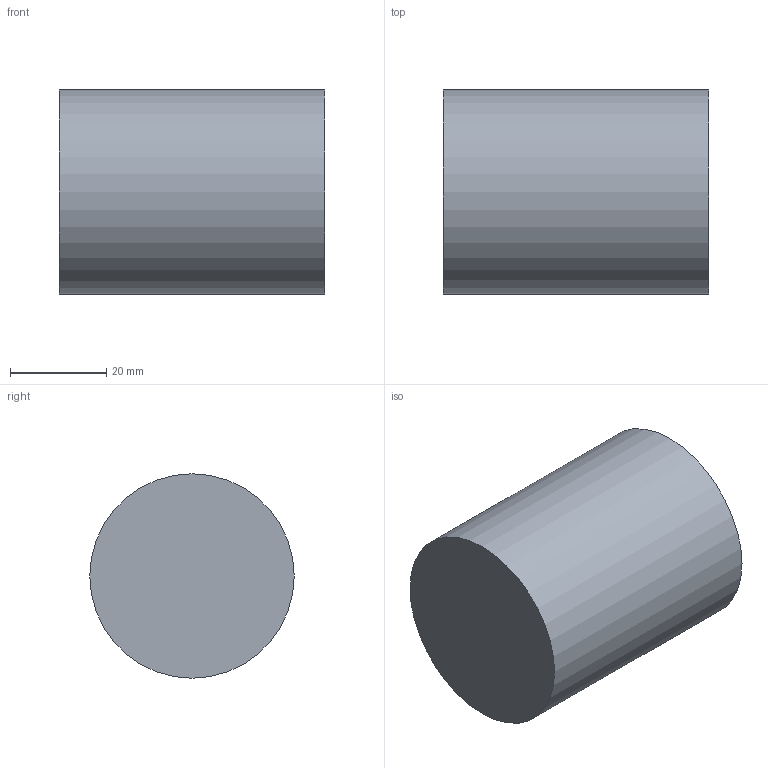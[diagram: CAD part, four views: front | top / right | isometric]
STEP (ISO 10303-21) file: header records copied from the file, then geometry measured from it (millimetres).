
FILE_DESCRIPTION(/* description */ (''),/* implementation_level */ '2;1');
FILE_NAME(/* name */ 'Endkappe 42.4.stp',/* time_stamp */ '2024-03-12T15:53:48+01:00',/* author */ ('peter.csaszar'),/* organization */ (''),/* preprocessor_version */ 'ST-DEVELOPER v20',/* originating_system */ 'Autodesk Inventor 2024',/* authorisation */ '');
FILE_SCHEMA (('AUTOMOTIVE_DESIGN { 1 0 10303 214 3 1 1 }'));
Length unit declared in the file: millimetre
Products named in the file (1): Bauteil1
Bounding box: 55 x 42.4 x 42.4 mm (x, y, z)
Volume: 16277.5 mm3; surface area: 16543.9 mm2
Topology: 1 solids, 1 shells, 5 faces, 6 edges, 4 vertices
Faces by surface type: plane 3, cylinder 2
Full cylindrical faces by diameter (mm): 38.4 x1, 42.4 x1
Entity records: 147 total; most frequent: DIRECTION 22, CARTESIAN_POINT 16, ORIENTED_EDGE 12, AXIS2_PLACEMENT_3D 10, EDGE_LOOP 6, EDGE_CURVE 6, FACE_OUTER_BOUND 5, ADVANCED_FACE 5
